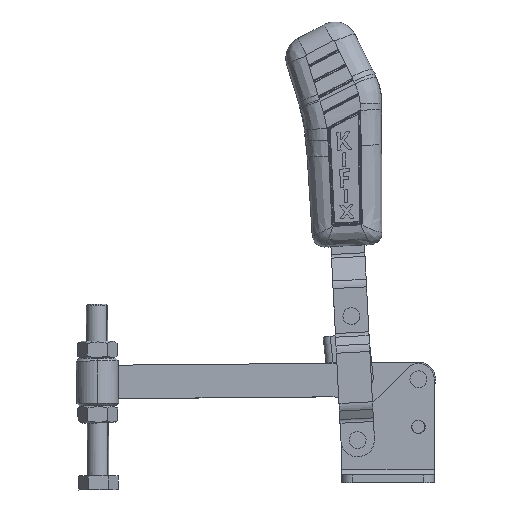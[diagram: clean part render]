
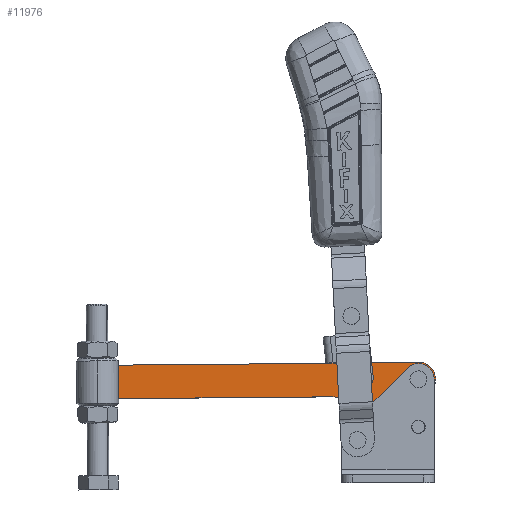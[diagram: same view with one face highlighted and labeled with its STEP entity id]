
A CAD part, top view. The second image highlights one B-rep face of the part: STEP entity #11976.
In plain terms, the highlighted planar face has unit normal (0, 0, 1) as drawn and (0, -1, 0) by its records, which use the part's own axes.
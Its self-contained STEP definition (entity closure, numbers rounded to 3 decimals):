
#824 = AXIS2_PLACEMENT_3D ( 'NONE', #18921, #8553, #20653 ) ;
#886 = VERTEX_POINT ( 'NONE', #16725 ) ;
#999 = DIRECTION ( 'NONE',  ( 0., 0., -1. ) ) ;
#1707 = LINE ( 'NONE', #20497, #15070 ) ;
#1978 = VERTEX_POINT ( 'NONE', #7255 ) ;
#2194 = EDGE_CURVE ( 'NONE', #886, #22252, #12479, .T. ) ;
#2386 = ORIENTED_EDGE ( 'NONE', *, *, #10498, .T. ) ;
#2526 = CARTESIAN_POINT ( 'NONE',  ( -56.018, 0., 0. ) ) ;
#2842 = AXIS2_PLACEMENT_3D ( 'NONE', #18706, #8326, #20431 ) ;
#2857 = DIRECTION ( 'NONE',  ( 0., 1., 0. ) ) ;
#3251 = EDGE_CURVE ( 'NONE', #9669, #21654, #12706, .T. ) ;
#3386 = VERTEX_POINT ( 'NONE', #22540 ) ;
#3445 = VERTEX_POINT ( 'NONE', #16571 ) ;
#4041 = CIRCLE ( 'NONE', #2842, 2.4 ) ;
#4253 = CIRCLE ( 'NONE', #824, 10. ) ;
#4639 = ORIENTED_EDGE ( 'NONE', *, *, #2194, .T. ) ;
#5374 = CARTESIAN_POINT ( 'NONE',  ( -57.55, 0., -6.35 ) ) ;
#5516 = PLANE ( 'NONE',  #12426 ) ;
#5608 = DIRECTION ( 'NONE',  ( 0., -1., 0. ) ) ;
#5626 = VECTOR ( 'NONE', #19280, 1000. ) ;
#5817 = EDGE_CURVE ( 'NONE', #3386, #3445, #1707, .T. ) ;
#5884 = DIRECTION ( 'NONE',  ( 0., 0., 1. ) ) ;
#6184 = LINE ( 'NONE', #5374, #5626 ) ;
#6308 = VERTEX_POINT ( 'NONE', #7655 ) ;
#6524 = CARTESIAN_POINT ( 'NONE',  ( -57.55, 0., 6.35 ) ) ;
#6613 = ORIENTED_EDGE ( 'NONE', *, *, #5817, .F. ) ;
#6634 = EDGE_CURVE ( 'NONE', #1978, #21654, #18616, .T. ) ;
#6757 = DIRECTION ( 'NONE',  ( 0., 0., 1. ) ) ;
#7255 = CARTESIAN_POINT ( 'NONE',  ( -57.55, 0., -6.35 ) ) ;
#7286 = DIRECTION ( 'NONE',  ( 0., 0., -1. ) ) ;
#7339 = CARTESIAN_POINT ( 'NONE',  ( -56.018, 0., 0. ) ) ;
#7655 = CARTESIAN_POINT ( 'NONE',  ( -56.018, 0., 2.4 ) ) ;
#8326 = DIRECTION ( 'NONE',  ( 0., 1., 0. ) ) ;
#8553 = DIRECTION ( 'NONE',  ( 0., 1., 0. ) ) ;
#8592 = FACE_BOUND ( 'NONE', #16354, .T. ) ;
#8962 = AXIS2_PLACEMENT_3D ( 'NONE', #7339, #19474, #9109 ) ;
#9109 = DIRECTION ( 'NONE',  ( 0., 0., 1. ) ) ;
#9334 = VECTOR ( 'NONE', #999, 1000. ) ;
#9669 = VERTEX_POINT ( 'NONE', #20632 ) ;
#9867 = LINE ( 'NONE', #11526, #9334 ) ;
#9907 = DIRECTION ( 'NONE',  ( 1., 0., 0. ) ) ;
#9909 = CARTESIAN_POINT ( 'NONE',  ( 57.55, 0., -6.35 ) ) ;
#9990 = AXIS2_PLACEMENT_3D ( 'NONE', #13323, #2857, #15044 ) ;
#10498 = EDGE_CURVE ( 'NONE', #18222, #6308, #4041, .T. ) ;
#11526 = CARTESIAN_POINT ( 'NONE',  ( 57.55, 0., -6.35 ) ) ;
#11655 = ORIENTED_EDGE ( 'NONE', *, *, #20798, .T. ) ;
#11976 = ADVANCED_FACE ( 'NONE', ( #8592, #13711, #22408 ), #5516, .T. ) ;
#12426 = AXIS2_PLACEMENT_3D ( 'NONE', #14179, #17697, #7286 ) ;
#12479 = CIRCLE ( 'NONE', #12515, 2.4 ) ;
#12482 = AXIS2_PLACEMENT_3D ( 'NONE', #2526, #18987, #21480 ) ;
#12515 = AXIS2_PLACEMENT_3D ( 'NONE', #14797, #14651, #5884 ) ;
#12700 = CIRCLE ( 'NONE', #9990, 2.4 ) ;
#12706 = CIRCLE ( 'NONE', #21193, 55.7 ) ;
#13323 = CARTESIAN_POINT ( 'NONE',  ( -33.018, 0., 0. ) ) ;
#13711 = FACE_OUTER_BOUND ( 'NONE', #13855, .T. ) ;
#13855 = EDGE_LOOP ( 'NONE', ( #21346, #19656, #15052, #6613, #21386, #19070 ) ) ;
#14077 = EDGE_CURVE ( 'NONE', #6308, #18222, #22333, .T. ) ;
#14179 = CARTESIAN_POINT ( 'NONE',  ( -56.018, 0., 0. ) ) ;
#14343 = EDGE_CURVE ( 'NONE', #3445, #18870, #9867, .T. ) ;
#14651 = DIRECTION ( 'NONE',  ( 0., 1., 0. ) ) ;
#14797 = CARTESIAN_POINT ( 'NONE',  ( -33.018, 0., 0. ) ) ;
#15044 = DIRECTION ( 'NONE',  ( 0., 0., 1. ) ) ;
#15052 = ORIENTED_EDGE ( 'NONE', *, *, #14343, .F. ) ;
#15070 = VECTOR ( 'NONE', #9907, 1000. ) ;
#15941 = CARTESIAN_POINT ( 'NONE',  ( -41.05, 0., -46.85 ) ) ;
#16354 = EDGE_LOOP ( 'NONE', ( #4639, #11655 ) ) ;
#16571 = CARTESIAN_POINT ( 'NONE',  ( 57.55, 0., 6.35 ) ) ;
#16622 = ORIENTED_EDGE ( 'NONE', *, *, #14077, .T. ) ;
#16725 = CARTESIAN_POINT ( 'NONE',  ( -33.018, 0., -2.4 ) ) ;
#17697 = DIRECTION ( 'NONE',  ( 0., -1., 0. ) ) ;
#18084 = CARTESIAN_POINT ( 'NONE',  ( -33.018, 0., 2.4 ) ) ;
#18222 = VERTEX_POINT ( 'NONE', #22344 ) ;
#18412 = EDGE_LOOP ( 'NONE', ( #2386, #16622 ) ) ;
#18616 = CIRCLE ( 'NONE', #12482, 6.532 ) ;
#18706 = CARTESIAN_POINT ( 'NONE',  ( -56.018, 0., 0. ) ) ;
#18870 = VERTEX_POINT ( 'NONE', #9909 ) ;
#18921 = CARTESIAN_POINT ( 'NONE',  ( -23.099, 0., 16.35 ) ) ;
#18987 = DIRECTION ( 'NONE',  ( 0., 1., 0. ) ) ;
#19005 = EDGE_CURVE ( 'NONE', #3386, #9669, #4253, .T. ) ;
#19070 = ORIENTED_EDGE ( 'NONE', *, *, #3251, .T. ) ;
#19280 = DIRECTION ( 'NONE',  ( -1., 0., 0. ) ) ;
#19474 = DIRECTION ( 'NONE',  ( 0., 1., 0. ) ) ;
#19656 = ORIENTED_EDGE ( 'NONE', *, *, #20656, .F. ) ;
#20431 = DIRECTION ( 'NONE',  ( 0., 0., 1. ) ) ;
#20497 = CARTESIAN_POINT ( 'NONE',  ( 57.55, 0., 6.35 ) ) ;
#20632 = CARTESIAN_POINT ( 'NONE',  ( -25.831, 0., 6.731 ) ) ;
#20653 = DIRECTION ( 'NONE',  ( 0., 0., -1. ) ) ;
#20656 = EDGE_CURVE ( 'NONE', #18870, #1978, #6184, .T. ) ;
#20798 = EDGE_CURVE ( 'NONE', #22252, #886, #12700, .T. ) ;
#21193 = AXIS2_PLACEMENT_3D ( 'NONE', #15941, #5608, #6757 ) ;
#21346 = ORIENTED_EDGE ( 'NONE', *, *, #6634, .F. ) ;
#21386 = ORIENTED_EDGE ( 'NONE', *, *, #19005, .T. ) ;
#21480 = DIRECTION ( 'NONE',  ( 0., 0., -1. ) ) ;
#21654 = VERTEX_POINT ( 'NONE', #6524 ) ;
#22252 = VERTEX_POINT ( 'NONE', #18084 ) ;
#22333 = CIRCLE ( 'NONE', #8962, 2.4 ) ;
#22344 = CARTESIAN_POINT ( 'NONE',  ( -56.018, 0., -2.4 ) ) ;
#22408 = FACE_BOUND ( 'NONE', #18412, .T. ) ;
#22540 = CARTESIAN_POINT ( 'NONE',  ( -23.099, 0., 6.35 ) ) ;
